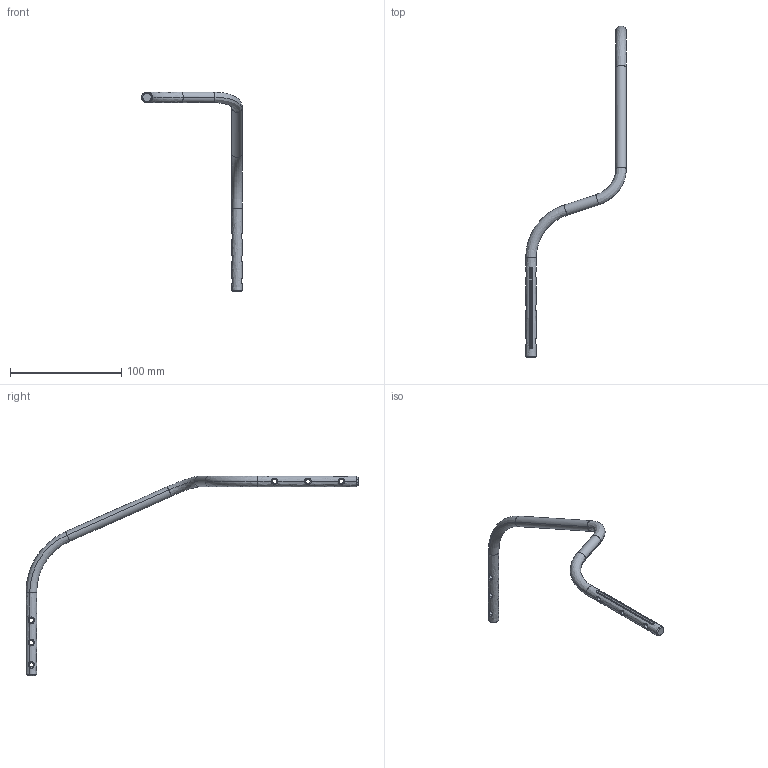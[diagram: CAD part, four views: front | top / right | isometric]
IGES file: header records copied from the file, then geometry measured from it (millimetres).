
Start section: START RECORD GO HERE.
Global section: file name: 1360.000.009.000.TUBO.igs; native system: DASSAULT SYSTEMES CATIA Version 5-6 Release 2018 - www.3ds.com; preprocessor: V5-6R2018_5.28.6.0.03-10-2020.20.00; author: Pc; organization: DESKTOP-CAESKE4; date: 20241108.095706; units: millimetre
Bounding box: 90.48 x 298.4 x 179.68 mm (x, y, z)
Surface area: 14447.7 mm2 (no closed solid volume)
Topology: 0 solids, 0 shells, 98 faces, 538 edges, 538 vertices
Faces by surface type: bspline 48, revolution 42, plane 8
